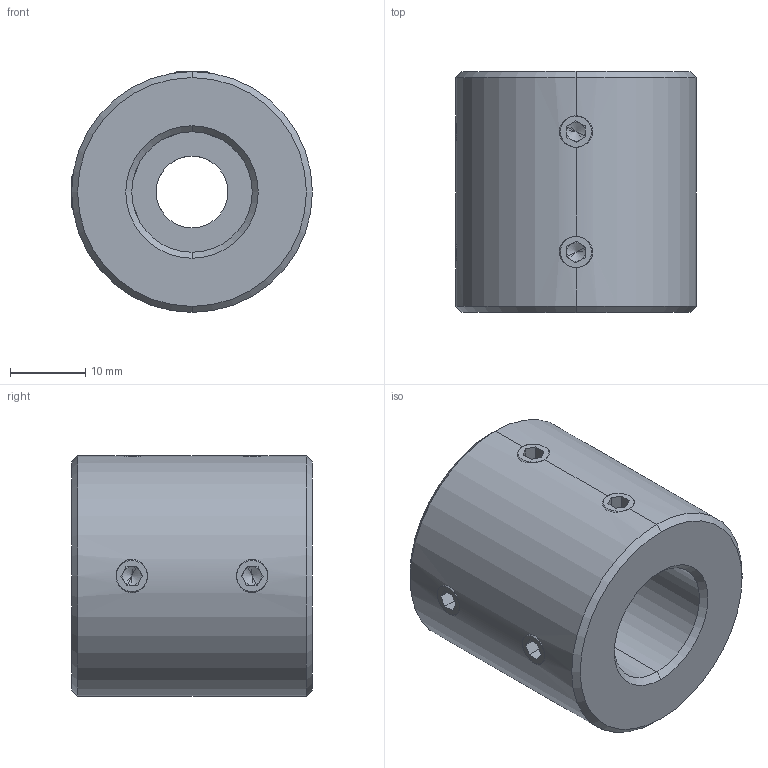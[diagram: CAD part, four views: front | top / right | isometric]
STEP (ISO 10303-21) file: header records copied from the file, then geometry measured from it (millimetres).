
FILE_DESCRIPTION (( 'STEP AP214' ), '1' );
FILE_NAME ('LL-D-D32L32-9.525-16½¨Ä£.STEP', '2022-07-22T11:27:56', ( '' ), ( '' ), 'SwSTEP 2.0', 'SolidWorks 2022', '' );
FILE_SCHEMA (( 'AUTOMOTIVE_DESIGN' ));
Length unit declared in the file: millimetre
Products named in the file (1): LL-D-D32L32-9.525-16膘耀
Bounding box: 32 x 32 x 32 mm (x, y, z)
Volume: 21144.8 mm3; surface area: 6028.5 mm2
Topology: 1 solids, 1 shells, 113 faces, 286 edges, 176 vertices
Faces by surface type: plane 59, cone 32, cylinder 22
Entity records: 3748 total; most frequent: CARTESIAN_POINT 1038, DIRECTION 558, ORIENTED_EDGE 556, EDGE_CURVE 278, AXIS2_PLACEMENT_3D 206, VERTEX_POINT 176, VECTOR 146, LINE 146
